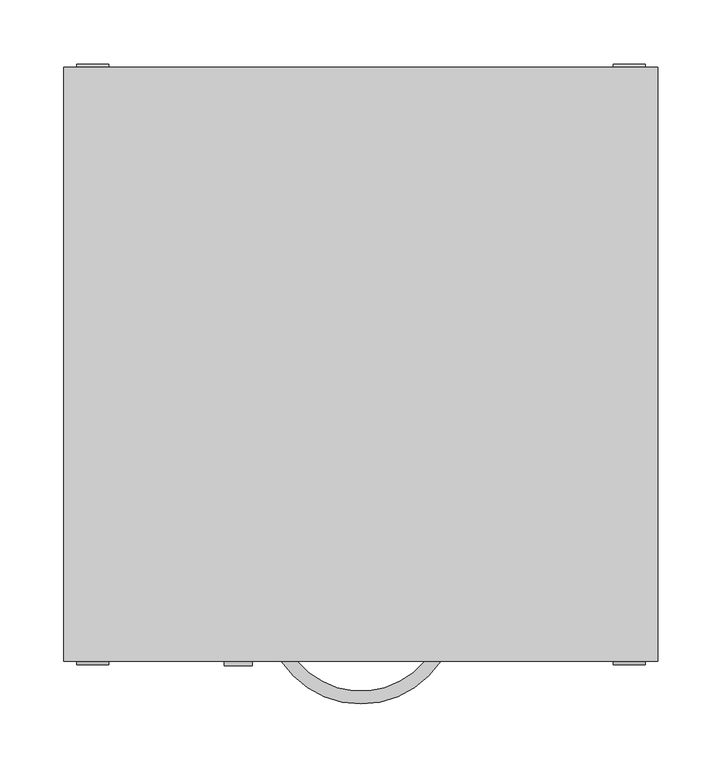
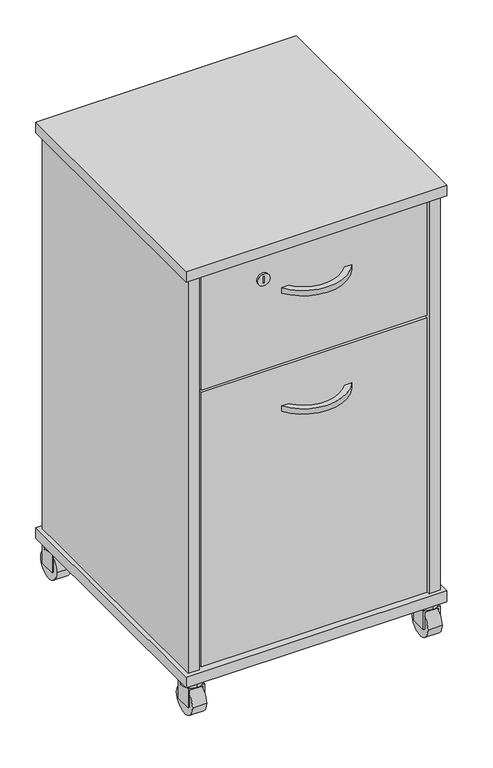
"""IFC4 building model written with IfcOpenShell, lengths in millimetres: proxy geometry, BIMHealth-Locker_Bedside-LOD2A-v1 : BIMHealth-Locker_Bedside-LOD2A-v1."""

import ifcopenshell
import ifcopenshell.guid

model = None  # the IFC model being written
_history = None  # IfcOwnerHistory: only IFC2X3 demands one
_inside = {}  # id of a spatial element -> (the spatial element, [elements in it])
_under = {}  # id of a project, library or spatial element -> (it, [spatial elements below it])
_declared = {}  # id of a project -> (the project, [libraries it declares])
_typed = {}  # id of a type object -> (the type object, [elements of that type])
_made_of = {}  # id of a material, layer set ... -> (it, [elements and type objects made of it])


def new_model(schema):
    """Start an empty IFC model of exactly this schema.

    Asked for "IFC4X3", IfcOpenShell would pick the latest addendum, in which some entities
    have other attributes; the version numbers below select the first issue.
    IFC2X3 requires an IfcOwnerHistory on every rooted entity: one is made here for all.
    """
    global model, _history
    if schema == "IFC4X3":
        model = ifcopenshell.file(schema_version=(4, 3, 0, 0))
    else:
        model = ifcopenshell.file(schema=schema)
    _inside.clear()
    _under.clear()
    _declared.clear()
    _typed.clear()
    _made_of.clear()
    _history = None
    if model.schema == "IFC2X3":
        org = make("IfcOrganization", Name="unknown")
        user = make(
            "IfcPersonAndOrganization",
            ThePerson=make("IfcPerson", FamilyName="unknown"),
            TheOrganization=org,
        )
        app = make(
            "IfcApplication",
            ApplicationDeveloper=org,
            Version="unknown",
            ApplicationFullName="unknown",
            ApplicationIdentifier="unknown",
        )
        _history = make(
            "IfcOwnerHistory",
            OwningUser=user,
            OwningApplication=app,
            ChangeAction="ADDED",
            CreationDate=0,
        )
    return model


def make(cls, **values):
    """One entity of the class cls with the attributes given. An attribute that is None is left unset."""
    return model.create_entity(
        cls, **{name: value for name, value in values.items() if value is not None}
    )


def rooted(cls, **values):
    """An entity with a GlobalId (a new one), such as an element, a storey or a relation."""
    return make(cls, GlobalId=ifcopenshell.guid.new(), OwnerHistory=_history, **values)


def si_unit(unit_type, name, prefix=None):
    """IfcSIUnit, for example si_unit("LENGTHUNIT", "METRE", prefix="MILLI")."""
    return make("IfcSIUnit", UnitType=unit_type, Prefix=prefix, Name=name)


def assignment(units):
    """IfcUnitAssignment: the units of a project."""
    return None if units is None else make("IfcUnitAssignment", Units=units)


def point(xyz):
    """IfcCartesianPoint."""
    return None if xyz is None else make("IfcCartesianPoint", Coordinates=xyz)


def direction(xyz):
    """IfcDirection."""
    return None if xyz is None else make("IfcDirection", DirectionRatios=xyz)


def frame(location, z_axis=None, x_axis=None):
    """IfcAxis2Placement3D, a coordinate frame: its origin and axes. An axis left out is left unset."""
    return make(
        "IfcAxis2Placement3D",
        Location=point(location),
        Axis=direction(z_axis),
        RefDirection=direction(x_axis),
    )


def frame_2d(location, x_axis=None):
    """IfcAxis2Placement2D, a coordinate frame in the plane: its origin and x axis."""
    return make(
        "IfcAxis2Placement2D", Location=point(location), RefDirection=direction(x_axis)
    )


def origin():
    """The frame at (0, 0, 0) with its axes left unset."""
    return frame((0.0, 0.0, 0.0))


def place(relative_to, where):
    """IfcLocalPlacement: puts the frame where relative to a parent placement (None: the world)."""
    return make(
        "IfcLocalPlacement", PlacementRelTo=relative_to, RelativePlacement=where
    )


def context(
    kind, dimensions, precision=None, world=None, true_north=None, identifier=None
):
    """IfcGeometricRepresentationContext, for example the 3D "Model" context."""
    return make(
        "IfcGeometricRepresentationContext",
        ContextIdentifier=identifier,
        ContextType=kind,
        CoordinateSpaceDimension=dimensions,
        Precision=precision,
        WorldCoordinateSystem=world,
        TrueNorth=true_north,
    )


def project(units=None, contexts=None):
    """IfcProject with its units and contexts."""
    return rooted(
        "IfcProject",
        Name="project",
        RepresentationContexts=contexts,
        UnitsInContext=assignment(units),
    )


def spatial(cls, under=None, at=None, **own):
    """A site, building, storey or space (cls), placed at a placement, below another one or the project."""
    s = rooted(cls, ObjectPlacement=at, **own)
    if under is not None:
        _under.setdefault(under.id(), (under, []))[1].append(s)
    return s


def polyline(points):
    """IfcPolyline through the points."""
    return make("IfcPolyline", Points=[point(p) for p in points])


def circle_curve(where, radius):
    """IfcCircle in the frame where."""
    return make("IfcCircle", Position=where, Radius=radius)


def trimmed(basis, trim1, trim2, sense, master):
    """IfcTrimmedCurve: the piece of a basis curve between two trims."""
    return make(
        "IfcTrimmedCurve",
        BasisCurve=basis,
        Trim1=trim1,
        Trim2=trim2,
        SenseAgreement=sense,
        MasterRepresentation=master,
    )


def segment(curve, same_sense, transition):
    """IfcCompositeCurveSegment."""
    return make(
        "IfcCompositeCurveSegment",
        Transition=transition,
        SameSense=same_sense,
        ParentCurve=curve,
    )


def composite_curve(segments, self_intersect=None):
    """IfcCompositeCurve: segments joined end to end."""
    return make("IfcCompositeCurve", Segments=segments, SelfIntersect=self_intersect)


def outline(outer, holes=None, kind="AREA"):
    """IfcArbitraryClosedProfileDef: a profile drawn as a closed curve; with holes, ...WithVoids."""
    if holes is None:
        return make("IfcArbitraryClosedProfileDef", ProfileType=kind, OuterCurve=outer)
    return make(
        "IfcArbitraryProfileDefWithVoids",
        ProfileType=kind,
        OuterCurve=outer,
        InnerCurves=holes,
    )


def extrude(swept, where, along, depth):
    """IfcExtrudedAreaSolid: the profile swept, set in the frame where, extruded along a direction by depth."""
    return make(
        "IfcExtrudedAreaSolid",
        SweptArea=swept,
        Position=where,
        ExtrudedDirection=direction(along),
        Depth=depth,
    )


def shape(context_of_items, identifier, shape_type, items):
    """IfcShapeRepresentation: the items that make up one representation, for example the "Body"."""
    return make(
        "IfcShapeRepresentation",
        ContextOfItems=context_of_items,
        RepresentationIdentifier=identifier,
        RepresentationType=shape_type,
        Items=items,
    )


def source(mapping_origin, context_of_items, identifier, shape_type, items):
    """IfcRepresentationMap: a shape defined once, which mapped items show again and again."""
    return make(
        "IfcRepresentationMap",
        MappingOrigin=mapping_origin,
        MappedRepresentation=shape(context_of_items, identifier, shape_type, items),
    )


def transform(
    local_origin,
    x_axis=None,
    y_axis=None,
    z_axis=None,
    scale=None,
    scale2=None,
    scale3=None,
    uniform=True,
):
    """IfcCartesianTransformationOperator3D, or its non-uniform kind. x_axis, y_axis, z_axis: its Axis1, 2, 3."""
    if uniform:
        return make(
            "IfcCartesianTransformationOperator3D",
            Axis1=direction(x_axis),
            Axis2=direction(y_axis),
            LocalOrigin=point(local_origin),
            Scale=scale,
            Axis3=direction(z_axis),
        )
    return make(
        "IfcCartesianTransformationOperator3DnonUniform",
        Axis1=direction(x_axis),
        Axis2=direction(y_axis),
        LocalOrigin=point(local_origin),
        Scale=scale,
        Axis3=direction(z_axis),
        Scale2=scale2,
        Scale3=scale3,
    )


def mapped(mapping_source, mapping_target):
    """IfcMappedItem: shows the shape of a source again, moved by a transform."""
    return make(
        "IfcMappedItem", MappingSource=mapping_source, MappingTarget=mapping_target
    )


def made_of(thing, what):
    """Note that an element or type object is made of a material, layer set ...; save() writes the relation."""
    if what is not None:
        _made_of.setdefault(what.id(), (what, []))[1].append(thing)
    return thing


def element(
    cls,
    number,
    at=None,
    inside=None,
    cuts=None,
    type_object=None,
    material=None,
    context=None,
    identifier="Body",
    shape_type=None,
    held_by="IfcProductDefinitionShape",
    body=None,
    shapes=None,
    **own,
):
    """One element of the class cls, such as IfcWall. Its Tag is "e" and its number.

    at: its placement. inside: the storey or other place that contains it. cuts: it is an
    opening in that element (IfcRelVoidsElement). A single representation is given by context,
    identifier, shape_type and body (its items); several are given by shapes. held_by: the class
    of the entity that holds the representations. save() writes the other relations.
    """
    e = rooted(cls, Tag="e%d" % number, ObjectPlacement=at, **own)
    if body is not None:
        shapes = [shape(context, identifier, shape_type, body)]
    if shapes is not None:
        e.Representation = make(held_by, Representations=shapes)
    if inside is not None:
        _inside.setdefault(inside.id(), (inside, []))[1].append(e)
    if cuts is not None:
        rooted(
            "IfcRelVoidsElement", RelatingBuildingElement=cuts, RelatedOpeningElement=e
        )
    if type_object is not None:
        _typed.setdefault(type_object.id(), (type_object, []))[1].append(e)
    return made_of(e, material)


def aggregate(whole, parts):
    """IfcRelAggregates: a whole, such as a stair, and the parts it consists of."""
    return rooted("IfcRelAggregates", RelatingObject=whole, RelatedObjects=parts)


def save(model, path):
    """Write the relations noted so far, then the file.

    IfcRelAggregates (storeys below a building ...), IfcRelContainedInSpatialStructure (elements
    in a storey), IfcRelDefinesByType, IfcRelAssociatesMaterial and IfcRelDeclares: one each for
    every whole, place, type object, material and project.
    """
    for whole, parts in _under.values():
        aggregate(whole, parts)
    for where, things in _inside.values():
        rooted(
            "IfcRelContainedInSpatialStructure",
            RelatedElements=things,
            RelatingStructure=where,
        )
    for kind, things in _typed.values():
        rooted("IfcRelDefinesByType", RelatedObjects=things, RelatingType=kind)
    for what, things in _made_of.values():
        rooted("IfcRelAssociatesMaterial", RelatedObjects=things, RelatingMaterial=what)
    for by, libraries in _declared.values():
        rooted("IfcRelDeclares", RelatingContext=by, RelatedDefinitions=libraries)
    model.write(path)


def generic_models_51914271(model_context):
    return source(origin(), model_context, "Body", "SweptSolid", [
        extrude(outline(composite_curve([segment(trimmed(circle_curve(frame_2d((788.75, 179.0)), 11.0), [point((788.75, 168.0))], [point((788.75, 190.0))], False, "CARTESIAN"), True, "CONTINUOUS"), segment(trimmed(circle_curve(frame_2d((788.75, 179.0)), 11.0), [point((788.75, 190.0))], [point((788.75, 168.0))], False, "CARTESIAN"), True, "CONTINUOUS")], self_intersect=False), holes=[polyline([(795.0, 178.0), (795.0, 180.0), (782.5, 180.0), (782.5, 178.0), (795.0, 178.0)])]), frame((0.0, -461.0477533, 0.0), z_axis=(0.0, 1.0, 0.0), x_axis=(0.0, 0.0, 1.0)), (0.0, 0.0, 1.0), 3.5477533),
        extrude(outline(composite_curve([segment(polyline([(325.0, -457.5), (337.44998, -457.5)]), True, "CONTINUOUS"), segment(trimmed(circle_curve(frame_2d((275.0, -415.9668807)), 75.0), [point((337.44998, -457.5))], [point((212.55002, -457.5))], False, "CARTESIAN"), True, "CONTINUOUS"), segment(polyline([(212.55002, -457.5), (225.0, -457.5)]), True, "CONTINUOUS"), segment(trimmed(circle_curve(frame_2d((275.0, -415.9668807)), 65.0), [point((225.0, -457.5))], [point((325.0, -457.5))], True, "CARTESIAN"), True, "CONTINUOUS")], self_intersect=False)), frame((0.0, 0.0, 750.0), z_axis=(0.0, 0.0, 1.0), x_axis=(1.0, 0.0, 0.0)), (0.0, 0.0, 1.0), 10.0),
        extrude(outline(composite_curve([segment(polyline([(325.0, -457.5), (337.44998, -457.5)]), True, "CONTINUOUS"), segment(trimmed(circle_curve(frame_2d((275.0, -415.9668807)), 75.0), [point((337.44998, -457.5))], [point((212.55002, -457.5))], False, "CARTESIAN"), True, "CONTINUOUS"), segment(polyline([(212.55002, -457.5), (225.0, -457.5)]), True, "CONTINUOUS"), segment(trimmed(circle_curve(frame_2d((275.0, -415.9668807)), 65.0), [point((225.0, -457.5))], [point((325.0, -457.5))], True, "CARTESIAN"), True, "CONTINUOUS")], self_intersect=False)), frame((0.0, 0.0, 527.0), z_axis=(0.0, 0.0, 1.0), x_axis=(1.0, 0.0, 0.0)), (0.0, 0.0, 1.0), 10.0),
        extrude(outline(polyline([(476.0, -450.0), (74.0, -450.0), (74.0, -432.0), (476.0, -432.0), (476.0, -450.0)])), frame((0.0, 0.0, 611.0), z_axis=(0.0, 0.0, 1.0), x_axis=(1.0, 0.0, 0.0)), (0.0, 0.0, 1.0), 215.0),
        extrude(outline(polyline([(476.0, -450.0), (74.0, -450.0), (74.0, -432.0), (476.0, -432.0), (476.0, -450.0)])), frame((0.0, 0.0, 89.0), z_axis=(0.0, 0.0, 1.0), x_axis=(1.0, 0.0, 0.0)), (0.0, 0.0, 1.0), 518.0),
        extrude(outline(polyline([(507.5, 7.5), (507.5, -457.5), (42.5, -457.5), (42.5, 7.5), (507.5, 7.5)])), frame((0.0, 0.0, 830.0), z_axis=(0.0, 0.0, 1.0), x_axis=(1.0, 0.0, 0.0)), (0.0, 0.0, 1.0), 20.0),
        extrude(outline(polyline([(50.0, 0.0), (500.0, 0.0), (500.0, -450.0), (480.0, -450.0), (480.0, -20.0), (70.0, -20.0), (70.0, -450.0), (50.0, -450.0), (50.0, 0.0)])), frame((0.0, 0.0, 85.0), z_axis=(0.0, 0.0, 1.0), x_axis=(1.0, 0.0, 0.0)), (0.0, 0.0, 1.0), 745.0),
        extrude(outline(polyline([(507.5, 7.5), (507.5, -457.5), (42.5, -457.5), (42.5, 7.5), (507.5, 7.5)])), frame((0.0, 0.0, 65.0), z_axis=(0.0, 0.0, 1.0), x_axis=(1.0, 0.0, 0.0)), (0.0, 0.0, 1.0), 20.0),
        extrude(outline(composite_curve([segment(trimmed(circle_curve(frame_2d((65.0, -15.0)), 17.5), [point((65.0, 2.5))], [point((65.0, -32.5))], False, "CARTESIAN"), True, "CONTINUOUS"), segment(trimmed(circle_curve(frame_2d((65.0, -15.0)), 17.5), [point((65.0, -32.5))], [point((65.0, 2.5))], False, "CARTESIAN"), True, "CONTINUOUS")], self_intersect=False)), frame((0.0, 0.0, 55.0), z_axis=(0.0, 0.0, 1.0), x_axis=(1.0, 0.0, 0.0)), (0.0, 0.0, 1.0), 10.0),
        extrude(outline(composite_curve([segment(trimmed(circle_curve(frame_2d((-15.0, 25.0)), 25.0), [point((10.0, 25.0))], [point((-40.0, 25.0))], False, "CARTESIAN"), True, "CONTINUOUS"), segment(trimmed(circle_curve(frame_2d((-15.0, 25.0)), 25.0), [point((-40.0, 25.0))], [point((10.0, 25.0))], False, "CARTESIAN"), True, "CONTINUOUS")], self_intersect=False)), frame((52.5, 0.0, 0.0), z_axis=(1.0, 0.0, 0.0), x_axis=(0.0, 1.0, 0.0)), (0.0, 0.0, 1.0), 25.0),
        extrude(outline(polyline([(20.0, 50.0), (20.0, 52.5), (52.5, 52.5), (52.5, 77.5), (20.0, 77.5), (20.0, 80.0), (55.0, 80.0), (55.0, 50.0), (20.0, 50.0)])), frame((0.0, -30.0, 0.0), z_axis=(0.0, 1.0, 0.0), x_axis=(0.0, 0.0, 1.0)), (0.0, 0.0, 1.0), 30.0),
        extrude(outline(composite_curve([segment(trimmed(circle_curve(frame_2d((485.0, -15.0)), 17.5), [point((485.0, 2.5))], [point((485.0, -32.5))], False, "CARTESIAN"), True, "CONTINUOUS"), segment(trimmed(circle_curve(frame_2d((485.0, -15.0)), 17.5), [point((485.0, -32.5))], [point((485.0, 2.5))], False, "CARTESIAN"), True, "CONTINUOUS")], self_intersect=False)), frame((0.0, 0.0, 55.0), z_axis=(0.0, 0.0, 1.0), x_axis=(1.0, 0.0, 0.0)), (0.0, 0.0, 1.0), 10.0),
        extrude(outline(composite_curve([segment(trimmed(circle_curve(frame_2d((-15.0, 25.0)), 25.0), [point((10.0, 25.0))], [point((-40.0, 25.0))], False, "CARTESIAN"), True, "CONTINUOUS"), segment(trimmed(circle_curve(frame_2d((-15.0, 25.0)), 25.0), [point((-40.0, 25.0))], [point((10.0, 25.0))], False, "CARTESIAN"), True, "CONTINUOUS")], self_intersect=False)), frame((472.5, 0.0, 0.0), z_axis=(1.0, 0.0, 0.0), x_axis=(0.0, 1.0, 0.0)), (0.0, 0.0, 1.0), 25.0),
        extrude(outline(polyline([(20.0, 500.0), (55.0, 500.0), (55.0, 470.0), (20.0, 470.0), (20.0, 472.5), (52.5, 472.5), (52.5, 497.5), (20.0, 497.5), (20.0, 500.0)])), frame((0.0, -30.0, 0.0), z_axis=(0.0, 1.0, 0.0), x_axis=(0.0, 0.0, 1.0)), (0.0, 0.0, 1.0), 30.0),
        extrude(outline(composite_curve([segment(trimmed(circle_curve(frame_2d((65.0, -435.0)), 17.5), [point((65.0, -452.5))], [point((65.0, -417.5))], False, "CARTESIAN"), True, "CONTINUOUS"), segment(trimmed(circle_curve(frame_2d((65.0, -435.0)), 17.5), [point((65.0, -417.5))], [point((65.0, -452.5))], False, "CARTESIAN"), True, "CONTINUOUS")], self_intersect=False)), frame((0.0, 0.0, 55.0), z_axis=(0.0, 0.0, 1.0), x_axis=(1.0, 0.0, 0.0)), (0.0, 0.0, 1.0), 10.0),
        extrude(outline(composite_curve([segment(trimmed(circle_curve(frame_2d((-435.0, 25.0)), 25.0), [point((-460.0, 25.0))], [point((-410.0, 25.0))], False, "CARTESIAN"), True, "CONTINUOUS"), segment(trimmed(circle_curve(frame_2d((-435.0, 25.0)), 25.0), [point((-410.0, 25.0))], [point((-460.0, 25.0))], False, "CARTESIAN"), True, "CONTINUOUS")], self_intersect=False)), frame((52.5, 0.0, 0.0), z_axis=(1.0, 0.0, 0.0), x_axis=(0.0, 1.0, 0.0)), (0.0, 0.0, 1.0), 25.0),
        extrude(outline(polyline([(20.0, 50.0), (20.0, 52.5), (52.5, 52.5), (52.5, 77.5), (20.0, 77.5), (20.0, 80.0), (55.0, 80.0), (55.0, 50.0), (20.0, 50.0)])), frame((0.0, -450.0, 0.0), z_axis=(0.0, 1.0, 0.0), x_axis=(0.0, 0.0, 1.0)), (0.0, 0.0, 1.0), 30.0),
        extrude(outline(composite_curve([segment(trimmed(circle_curve(frame_2d((485.0, -435.0)), 17.5), [point((485.0, -452.5))], [point((485.0, -417.5))], False, "CARTESIAN"), True, "CONTINUOUS"), segment(trimmed(circle_curve(frame_2d((485.0, -435.0)), 17.5), [point((485.0, -417.5))], [point((485.0, -452.5))], False, "CARTESIAN"), True, "CONTINUOUS")], self_intersect=False)), frame((0.0, 0.0, 55.0), z_axis=(0.0, 0.0, 1.0), x_axis=(1.0, 0.0, 0.0)), (0.0, 0.0, 1.0), 10.0),
        extrude(outline(composite_curve([segment(trimmed(circle_curve(frame_2d((-435.0, 25.0)), 25.0), [point((-460.0, 25.0))], [point((-410.0, 25.0))], False, "CARTESIAN"), True, "CONTINUOUS"), segment(trimmed(circle_curve(frame_2d((-435.0, 25.0)), 25.0), [point((-410.0, 25.0))], [point((-460.0, 25.0))], False, "CARTESIAN"), True, "CONTINUOUS")], self_intersect=False)), frame((472.5, 0.0, 0.0), z_axis=(1.0, 0.0, 0.0), x_axis=(0.0, 1.0, 0.0)), (0.0, 0.0, 1.0), 25.0),
        extrude(outline(polyline([(20.0, 500.0), (55.0, 500.0), (55.0, 470.0), (20.0, 470.0), (20.0, 472.5), (52.5, 472.5), (52.5, 497.5), (20.0, 497.5), (20.0, 500.0)])), frame((0.0, -450.0, 0.0), z_axis=(0.0, 1.0, 0.0), x_axis=(0.0, 0.0, 1.0)), (0.0, 0.0, 1.0), 30.0),
    ])


if __name__ == "__main__":
    model = new_model("IFC4")
    model_context = context("Model", 3, world=origin())
    ifc_project = project(units=[si_unit("LENGTHUNIT", "METRE", prefix="MILLI")], contexts=[model_context])
    site = spatial("IfcSite", under=ifc_project)
    building = spatial("IfcBuilding", under=site)
    placement = place(None, origin())
    generic_models_shape = generic_models_51914271(model_context)
    element("IfcBuildingElementProxy", 1, Name="BIMHealth-Locker_Bedside-LOD2A-v1 : BIMHealth-Locker_Bedside-LOD2A-v1", ObjectType="BIMHealth-Locker_Bedside-LOD2A-v1 : BIMHealth-Locker_Bedside-LOD2A-v1", at=placement, inside=building, context=model_context, shape_type="MappedRepresentation", body=[
        mapped(generic_models_shape, transform((0.0, 0.0, 0.0), x_axis=(1.0, 0.0, 0.0), y_axis=(0.0, 1.0, 0.0), z_axis=(0.0, 0.0, 1.0))),
    ])
    save(model, "model.ifc")
